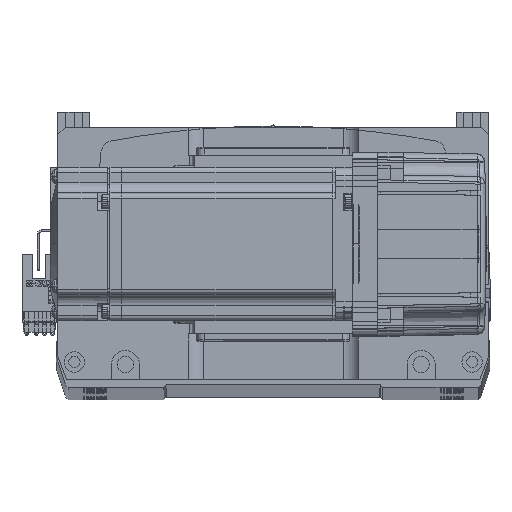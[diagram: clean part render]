
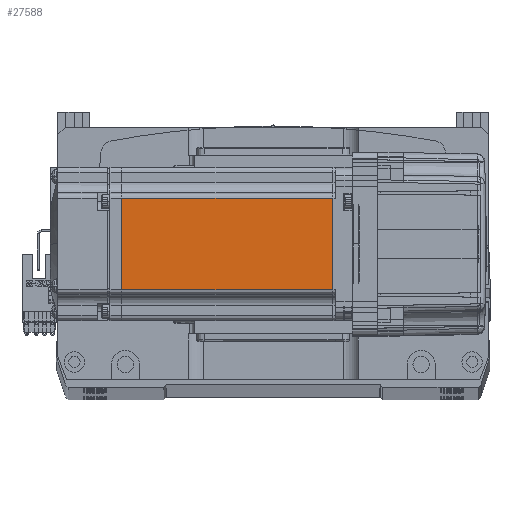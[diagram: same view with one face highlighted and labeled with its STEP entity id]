
A CAD part, top view. The second image highlights one B-rep face of the part: STEP entity #27588.
In plain terms, the highlighted planar face has unit normal (0, 0, 1).
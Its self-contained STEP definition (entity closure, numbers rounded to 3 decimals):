
#4803 = VECTOR ( 'NONE', #6712, 1000. ) ;
#6712 = DIRECTION ( 'NONE',  ( -1., 0., 0. ) ) ;
#7477 = CARTESIAN_POINT ( 'NONE',  ( -90.45, 18., 30. ) ) ;
#7781 = VERTEX_POINT ( 'NONE', #7477 ) ;
#8993 = ORIENTED_EDGE ( 'NONE', *, *, #27287, .T. ) ;
#9047 = DIRECTION ( 'NONE',  ( 0., -1., 0. ) ) ;
#10229 = ORIENTED_EDGE ( 'NONE', *, *, #14640, .T. ) ;
#11886 = DIRECTION ( 'NONE',  ( 0., 0., 1. ) ) ;
#12968 = VECTOR ( 'NONE', #66524, 1000. ) ;
#14640 = EDGE_CURVE ( 'NONE', #7781, #56269, #46755, .T. ) ;
#17338 = CARTESIAN_POINT ( 'NONE',  ( -6.5, -25., 30. ) ) ;
#17542 = ORIENTED_EDGE ( 'NONE', *, *, #68443, .F. ) ;
#19260 = CARTESIAN_POINT ( 'NONE',  ( -90.45, 0., 30. ) ) ;
#21447 = LINE ( 'NONE', #42775, #50973 ) ;
#22548 = DIRECTION ( 'NONE',  ( 1., 0., 0. ) ) ;
#27159 = DIRECTION ( 'NONE',  ( 0., -1., 0. ) ) ;
#27287 = EDGE_CURVE ( 'NONE', #43732, #7781, #30157, .T. ) ;
#27588 = ADVANCED_FACE ( 'NONE', ( #59764 ), #53496, .T. ) ;
#30157 = LINE ( 'NONE', #33904, #4803 ) ;
#32364 = VECTOR ( 'NONE', #9047, 1000. ) ;
#33904 = CARTESIAN_POINT ( 'NONE',  ( -6.5, 18., 30. ) ) ;
#34966 = ORIENTED_EDGE ( 'NONE', *, *, #67018, .F. ) ;
#40873 = CARTESIAN_POINT ( 'NONE',  ( -7.75, -18., 30. ) ) ;
#42775 = CARTESIAN_POINT ( 'NONE',  ( -7.75, 0., 30. ) ) ;
#43732 = VERTEX_POINT ( 'NONE', #60154 ) ;
#46755 = LINE ( 'NONE', #19260, #32364 ) ;
#50394 = CARTESIAN_POINT ( 'NONE',  ( -6.5, -18., 30. ) ) ;
#50973 = VECTOR ( 'NONE', #27159, 1000. ) ;
#51700 = EDGE_LOOP ( 'NONE', ( #17542, #8993, #10229, #34966 ) ) ;
#53496 = PLANE ( 'NONE',  #53760 ) ;
#53760 = AXIS2_PLACEMENT_3D ( 'NONE', #17338, #11886, #22548 ) ;
#53943 = VERTEX_POINT ( 'NONE', #40873 ) ;
#56269 = VERTEX_POINT ( 'NONE', #67890 ) ;
#59764 = FACE_OUTER_BOUND ( 'NONE', #51700, .T. ) ;
#60154 = CARTESIAN_POINT ( 'NONE',  ( -7.75, 18., 30. ) ) ;
#61251 = LINE ( 'NONE', #50394, #12968 ) ;
#66524 = DIRECTION ( 'NONE',  ( -1., 0., 0. ) ) ;
#67018 = EDGE_CURVE ( 'NONE', #53943, #56269, #61251, .T. ) ;
#67890 = CARTESIAN_POINT ( 'NONE',  ( -90.45, -18., 30. ) ) ;
#68443 = EDGE_CURVE ( 'NONE', #43732, #53943, #21447, .T. ) ;
